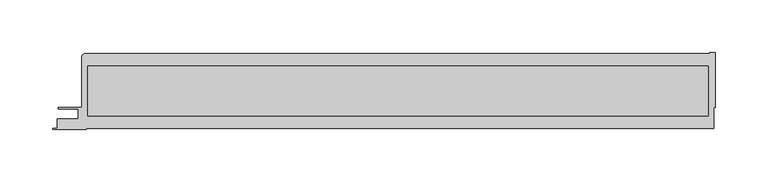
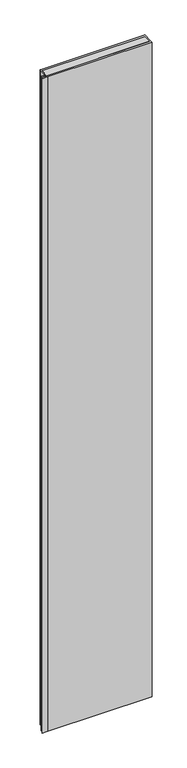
"""IFC4 building model written with IfcOpenShell, lengths in millimetres: plate geometry, Walls_External-Walls_Danpal_Danpatherm-K7-with-AIRPT-Frame : Walls_External-Walls_Danpal_Danpatherm-K7-with-AIRPT-Frame."""

from ifc_helpers import new_model, si_unit, frame, origin, place, context, project, spatial, polyline, circle_curve, outline, extrude, source, transform, mapped, element, save
from ifc_brep_helpers import plane_surface, cylinder_surface, advanced_brep


def plate_79f172ba(model_context):
    return source(origin(), model_context, "Body", "SolidModel", [
        extrude(outline(polyline([(293.7137097, 12.7999917), (-295.0075627, 12.7999917), (-295.0075627, 60.3432727), (293.7137097, 60.3432727), (293.7137097, 12.7999917)])), frame((0.0, 0.0, -22.0), z_axis=(0.0, 0.0, 1.0), x_axis=(1.0, 0.0, 0.0)), (0.0, 0.0, 1.0), 3948.6186541),
        advanced_brep(
        [(300.6039416, 73.143285, 3926.6186541), (295.4529162, 73.143285, 3926.6186541), (295.4529162, 72.343285, 3926.6186541), (-296.7610327, 72.343285, 3926.6186541), (-300.6039416, 68.5003761, 3926.6186541), (-300.6039416, 20.9715623, 3926.6186541), (-323.1733189, 20.9715623, 3926.6186541), (-323.1733189, 19.6715177, 3926.6186541), (-304.2171732, 19.6715177, 3926.6186541), (-304.2171732, 9.7656785, 3926.6186541), (-324.046933, 9.7656785, 3926.6186541), (-324.046933, 0.8, 3926.6186541), (-328.246933, 0.8, 3926.6186541), (-328.246933, 0.0, 3926.6186541), (-296.346933, 0.0, 3926.6186541), (-296.346933, 0.8, 3926.6186541), (299.3530732, 0.8, 3926.6186541), (299.3530732, 20.9715623, 3926.6186541), (300.6039416, 20.9715623, 3926.6186541), (293.7137097, 12.7999917, 3926.6186541), (-295.0075627, 12.7999917, 3926.6186541), (-295.0075627, 60.3432727, 3926.6186541), (293.7137097, 60.3432727, 3926.6186541), (295.4529162, 73.143285, -22.0), (300.6039416, 73.143285, -22.0), (300.6039416, 20.9715623, -22.0), (299.3530732, 20.9715623, -22.0), (299.3530732, 0.8, -22.0), (-296.346933, 0.8, -22.0), (-296.346933, 0.0, -22.0), (-328.246933, 0.0, -22.0), (-328.246933, 0.8, -22.0), (-324.046933, 0.8, -22.0), (-324.046933, 9.7656785, -22.0), (-304.2171732, 9.7656785, -22.0), (-304.2171732, 19.6715177, -22.0), (-323.1733189, 19.6715177, -22.0), (-323.1733189, 20.9715623, -22.0), (-300.6039416, 20.9715623, -22.0), (-300.6039416, 68.5003761, -22.0), (-296.7610327, 72.343285, -22.0), (295.4529162, 72.343285, -22.0), (293.7137097, 12.7999917, -22.0), (293.7137097, 60.3432727, -22.0), (-295.0075627, 60.3432727, -22.0), (-295.0075627, 12.7999917, -22.0)],
        [
            (0, 1),
            (1, 2),
            (2, 3),
            (3, 4, circle_curve(frame((-296.7610327, 68.5003761, 3926.6186541), z_axis=(0.0, 0.0, 1.0), x_axis=(0.0, 1.0, 0.0)), 3.8429089)),
            (4, 5),
            (5, 6),
            (6, 7),
            (7, 8),
            (8, 9),
            (9, 10),
            (10, 11),
            (11, 12),
            (12, 13),
            (13, 14),
            (14, 15),
            (15, 16),
            (16, 17),
            (17, 18),
            (18, 0),
            (19, 20),
            (20, 21),
            (21, 22),
            (22, 19),
            (23, 24),
            (24, 25),
            (25, 26),
            (26, 27),
            (27, 28),
            (28, 29),
            (29, 30),
            (30, 31),
            (31, 32),
            (32, 33),
            (33, 34),
            (34, 35),
            (35, 36),
            (36, 37),
            (37, 38),
            (38, 39),
            (39, 40, circle_curve(frame((-296.7610327, 68.5003761, -22.0), z_axis=(0.0, 0.0, -1.0), x_axis=(0.0, 1.0, 0.0)), 3.8429089)),
            (40, 41),
            (41, 23),
            (42, 43),
            (43, 44),
            (44, 45),
            (45, 42),
            (18, 25),
            (24, 0),
            (17, 26),
            (16, 27),
            (15, 28),
            (14, 29),
            (13, 30),
            (12, 31),
            (11, 32),
            (10, 33),
            (9, 34),
            (8, 35),
            (7, 36),
            (6, 37),
            (5, 38),
            (4, 39),
            (3, 40),
            (2, 41),
            (1, 23),
            (22, 43),
            (42, 19),
            (21, 44),
            (20, 45),
        ],
        [
            plane_surface(frame((-300.6039416, 0.0, 3926.6186541), z_axis=(0.0, 0.0, 1.0), x_axis=(0.0, 1.0, 0.0))),
            plane_surface(frame((-300.6039416, 0.0, -22.0), z_axis=(0.0, 0.0, -1.0), x_axis=(0.0, 1.0, 0.0))),
            plane_surface(frame((300.6530727, 52.1717185, 3926.6186541), z_axis=(1.0, 0.0, 0.0), x_axis=(0.0, 0.0, -1.0))),
            plane_surface(frame((305.6530732, 20.9715623, 3926.6186541), z_axis=(0.0, -1.0, 0.0), x_axis=(0.0, 0.0, -1.0))),
            plane_surface(frame((299.3530732, 20.9715623, 3926.6186541), z_axis=(1.0, 0.0, 0.0), x_axis=(0.0, 0.0, -1.0))),
            plane_surface(frame((299.3530732, 0.8, 3926.6186541), z_axis=(0.0, -1.0, 0.0), x_axis=(0.0, 0.0, -1.0))),
            plane_surface(frame((-296.346933, 0.8, 3926.6186541), z_axis=(1.0, 0.0, 0.0), x_axis=(0.0, 0.0, -1.0))),
            plane_surface(frame((-296.346933, 0.0, 3926.6186541), z_axis=(0.0, -1.0, 0.0), x_axis=(0.0, 0.0, -1.0))),
            plane_surface(frame((-328.246933, 0.0, 3926.6186541), z_axis=(-1.0, 0.0, 0.0), x_axis=(0.0, 0.0, -1.0))),
            plane_surface(frame((-328.246933, 0.8, 3926.6186541), z_axis=(0.0, 1.0, 0.0), x_axis=(0.0, 0.0, -1.0))),
            plane_surface(frame((-324.046933, 0.8, 3926.6186541), z_axis=(-1.0, 0.0, 0.0), x_axis=(0.0, 0.0, -1.0))),
            plane_surface(frame((-324.046933, 9.7656785, 3926.6186541), z_axis=(0.0, 1.0, 0.0), x_axis=(0.0, 0.0, -1.0))),
            plane_surface(frame((-304.2171732, 9.7656785, 3926.6186541), z_axis=(-1.0, 0.0, 0.0), x_axis=(0.0, 0.0, -1.0))),
            plane_surface(frame((-304.2171732, 19.6715177, 3926.6186541), z_axis=(0.0, -1.0, 0.0), x_axis=(0.0, 0.0, -1.0))),
            plane_surface(frame((-323.1733189, 19.6715177, 3926.6186541), z_axis=(-1.0, 0.0, 0.0), x_axis=(0.0, 0.0, -1.0))),
            plane_surface(frame((-323.1733189, 20.9715623, 3926.6186541), z_axis=(0.0, 1.0, 0.0), x_axis=(0.0, 0.0, -1.0))),
            plane_surface(frame((-300.6039416, 20.9715623, 3926.6186541), z_axis=(-1.0, 0.0, 0.0), x_axis=(0.0, 0.0, -1.0))),
            cylinder_surface(frame((-296.7610327, 68.5003761, 3926.6186541), z_axis=(0.0, 0.0, 1.0), x_axis=(0.0, 1.0, 0.0)), 3.8429089),
            plane_surface(frame((-296.7610327, 72.343285, 3926.6186541), z_axis=(0.0, 1.0, 0.0), x_axis=(0.0, 0.0, -1.0))),
            plane_surface(frame((295.4529162, 72.343285, 3926.6186541), z_axis=(-1.0, 0.0, 0.0), x_axis=(0.0, 0.0, -1.0))),
            plane_surface(frame((295.4529162, 73.143285, 3926.6186541), z_axis=(0.0, 1.0, 0.0), x_axis=(0.0, 0.0, -1.0))),
            plane_surface(frame((293.7137097, 12.7999917, 3926.6186541), z_axis=(-1.0, 0.0, 0.0), x_axis=(0.0, 0.0, -1.0))),
            plane_surface(frame((293.7137097, 60.3432727, 3926.6186541), z_axis=(0.0, -1.0, 0.0), x_axis=(0.0, 0.0, -1.0))),
            plane_surface(frame((-295.0075627, 60.3432727, 3926.6186541), z_axis=(1.0, 0.0, 0.0), x_axis=(0.0, 0.0, -1.0))),
            plane_surface(frame((-295.0075627, 12.7999917, 3926.6186541), z_axis=(0.0, 1.0, 0.0), x_axis=(0.0, 0.0, -1.0))),
        ],
        [
            (0, [[1, 2, 3, 4, 5, 6, 7, 8, 9, 10, 11, 12, 13, 14, 15, 16, 17, 18, 19], [20, 21, 22, 23]]),
            (1, [[24, 25, 26, 27, 28, 29, 30, 31, 32, 33, 34, 35, 36, 37, 38, 39, 40, 41, 42], [43, 44, 45, 46]]),
            (2, [[-19, 47, -25, 48]]),
            (3, [[-26, -47, -18, 49]]),
            (4, [[50, -27, -49, -17]]),
            (5, [[51, -28, -50, -16]]),
            (6, [[52, -29, -51, -15]]),
            (7, [[53, -30, -52, -14]]),
            (8, [[54, -31, -53, -13]]),
            (9, [[55, -32, -54, -12]]),
            (10, [[56, -33, -55, -11]]),
            (11, [[57, -34, -56, -10]]),
            (12, [[58, -35, -57, -9]]),
            (13, [[59, -36, -58, -8]]),
            (14, [[60, -37, -59, -7]]),
            (15, [[61, -38, -60, -6]]),
            (16, [[62, -39, -61, -5]]),
            (17, [[63, -40, -62, -4]]),
            (18, [[64, -41, -63, -3]]),
            (19, [[65, -42, -64, -2]]),
            (20, [[-1, -48, -24, -65]]),
            (21, [[66, -43, 67, -23]]),
            (22, [[68, -44, -66, -22]]),
            (23, [[69, -45, -68, -21]]),
            (24, [[-67, -46, -69, -20]]),
        ],
    ),
    ])


if __name__ == "__main__":
    model = new_model("IFC4")
    model_context = context("Model", 3, world=origin())
    ifc_project = project(units=[si_unit("LENGTHUNIT", "METRE", prefix="MILLI")], contexts=[model_context])
    site = spatial("IfcSite", under=ifc_project)
    building = spatial("IfcBuilding", under=site)
    placement = place(None, origin())
    plate_shape = plate_79f172ba(model_context)
    element("IfcPlate", 1, ObjectType="Walls_External-Walls_Danpal_Danpatherm-K7-with-AIRPT-Frame : Walls_External-Walls_Danpal_Danpatherm-K7-with-AIRPT-Frame", at=placement, inside=building, context=model_context, shape_type="MappedRepresentation", body=[
        mapped(plate_shape, transform((0.0, 0.0, 0.0), x_axis=(1.0, 0.0, 0.0), y_axis=(0.0, 1.0, 0.0), z_axis=(0.0, 0.0, 1.0))),
    ])
    save(model, "model.ifc")
